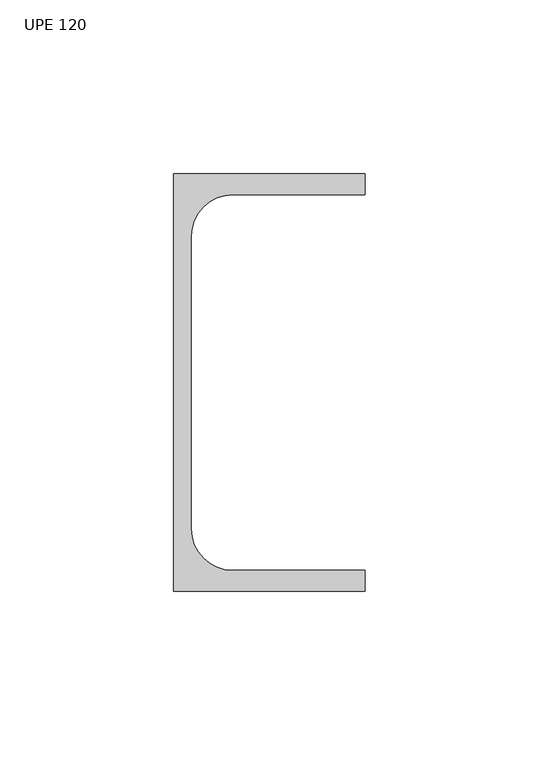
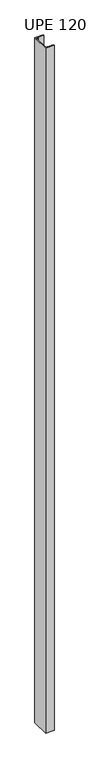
"""IFC4 building model written with IfcOpenShell, lengths in millimetres: column geometry, UPE - Canales de ala paralela - Pilar : UPE 120."""

import ifcopenshell
import ifcopenshell.guid

model = None  # the IFC model being written
_history = None  # IfcOwnerHistory: only IFC2X3 demands one
_inside = {}  # id of a spatial element -> (the spatial element, [elements in it])
_under = {}  # id of a project, library or spatial element -> (it, [spatial elements below it])
_declared = {}  # id of a project -> (the project, [libraries it declares])
_typed = {}  # id of a type object -> (the type object, [elements of that type])
_made_of = {}  # id of a material, layer set ... -> (it, [elements and type objects made of it])


def new_model(schema):
    """Start an empty IFC model of exactly this schema.

    Asked for "IFC4X3", IfcOpenShell would pick the latest addendum, in which some entities
    have other attributes; the version numbers below select the first issue.
    IFC2X3 requires an IfcOwnerHistory on every rooted entity: one is made here for all.
    """
    global model, _history
    if schema == "IFC4X3":
        model = ifcopenshell.file(schema_version=(4, 3, 0, 0))
    else:
        model = ifcopenshell.file(schema=schema)
    _inside.clear()
    _under.clear()
    _declared.clear()
    _typed.clear()
    _made_of.clear()
    _history = None
    if model.schema == "IFC2X3":
        org = make("IfcOrganization", Name="unknown")
        user = make(
            "IfcPersonAndOrganization",
            ThePerson=make("IfcPerson", FamilyName="unknown"),
            TheOrganization=org,
        )
        app = make(
            "IfcApplication",
            ApplicationDeveloper=org,
            Version="unknown",
            ApplicationFullName="unknown",
            ApplicationIdentifier="unknown",
        )
        _history = make(
            "IfcOwnerHistory",
            OwningUser=user,
            OwningApplication=app,
            ChangeAction="ADDED",
            CreationDate=0,
        )
    return model


def make(cls, **values):
    """One entity of the class cls with the attributes given. An attribute that is None is left unset."""
    return model.create_entity(
        cls, **{name: value for name, value in values.items() if value is not None}
    )


def rooted(cls, **values):
    """An entity with a GlobalId (a new one), such as an element, a storey or a relation."""
    return make(cls, GlobalId=ifcopenshell.guid.new(), OwnerHistory=_history, **values)


def si_unit(unit_type, name, prefix=None):
    """IfcSIUnit, for example si_unit("LENGTHUNIT", "METRE", prefix="MILLI")."""
    return make("IfcSIUnit", UnitType=unit_type, Prefix=prefix, Name=name)


def assignment(units):
    """IfcUnitAssignment: the units of a project."""
    return None if units is None else make("IfcUnitAssignment", Units=units)


def point(xyz):
    """IfcCartesianPoint."""
    return None if xyz is None else make("IfcCartesianPoint", Coordinates=xyz)


def direction(xyz):
    """IfcDirection."""
    return None if xyz is None else make("IfcDirection", DirectionRatios=xyz)


def frame(location, z_axis=None, x_axis=None):
    """IfcAxis2Placement3D, a coordinate frame: its origin and axes. An axis left out is left unset."""
    return make(
        "IfcAxis2Placement3D",
        Location=point(location),
        Axis=direction(z_axis),
        RefDirection=direction(x_axis),
    )


def frame_2d(location, x_axis=None):
    """IfcAxis2Placement2D, a coordinate frame in the plane: its origin and x axis."""
    return make(
        "IfcAxis2Placement2D", Location=point(location), RefDirection=direction(x_axis)
    )


def origin():
    """The frame at (0, 0, 0) with its axes left unset."""
    return frame((0.0, 0.0, 0.0))


def origin_with_axes():
    """The frame at (0, 0, 0) with the z axis (0, 0, 1) and the x axis (1, 0, 0) written out."""
    return frame((0.0, 0.0, 0.0), z_axis=(0.0, 0.0, 1.0), x_axis=(1.0, 0.0, 0.0))


def place(relative_to, where):
    """IfcLocalPlacement: puts the frame where relative to a parent placement (None: the world)."""
    return make(
        "IfcLocalPlacement", PlacementRelTo=relative_to, RelativePlacement=where
    )


def context(
    kind, dimensions, precision=None, world=None, true_north=None, identifier=None
):
    """IfcGeometricRepresentationContext, for example the 3D "Model" context."""
    return make(
        "IfcGeometricRepresentationContext",
        ContextIdentifier=identifier,
        ContextType=kind,
        CoordinateSpaceDimension=dimensions,
        Precision=precision,
        WorldCoordinateSystem=world,
        TrueNorth=true_north,
    )


def project(units=None, contexts=None):
    """IfcProject with its units and contexts."""
    return rooted(
        "IfcProject",
        Name="project",
        RepresentationContexts=contexts,
        UnitsInContext=assignment(units),
    )


def spatial(cls, under=None, at=None, **own):
    """A site, building, storey or space (cls), placed at a placement, below another one or the project."""
    s = rooted(cls, ObjectPlacement=at, **own)
    if under is not None:
        _under.setdefault(under.id(), (under, []))[1].append(s)
    return s


def polyline(points):
    """IfcPolyline through the points."""
    return make("IfcPolyline", Points=[point(p) for p in points])


def circle_curve(where, radius):
    """IfcCircle in the frame where."""
    return make("IfcCircle", Position=where, Radius=radius)


def trimmed(basis, trim1, trim2, sense, master):
    """IfcTrimmedCurve: the piece of a basis curve between two trims."""
    return make(
        "IfcTrimmedCurve",
        BasisCurve=basis,
        Trim1=trim1,
        Trim2=trim2,
        SenseAgreement=sense,
        MasterRepresentation=master,
    )


def segment(curve, same_sense, transition):
    """IfcCompositeCurveSegment."""
    return make(
        "IfcCompositeCurveSegment",
        Transition=transition,
        SameSense=same_sense,
        ParentCurve=curve,
    )


def composite_curve(segments, self_intersect=None):
    """IfcCompositeCurve: segments joined end to end."""
    return make("IfcCompositeCurve", Segments=segments, SelfIntersect=self_intersect)


def outline(outer, holes=None, kind="AREA"):
    """IfcArbitraryClosedProfileDef: a profile drawn as a closed curve; with holes, ...WithVoids."""
    if holes is None:
        return make("IfcArbitraryClosedProfileDef", ProfileType=kind, OuterCurve=outer)
    return make(
        "IfcArbitraryProfileDefWithVoids",
        ProfileType=kind,
        OuterCurve=outer,
        InnerCurves=holes,
    )


def extrude(swept, where, along, depth):
    """IfcExtrudedAreaSolid: the profile swept, set in the frame where, extruded along a direction by depth."""
    return make(
        "IfcExtrudedAreaSolid",
        SweptArea=swept,
        Position=where,
        ExtrudedDirection=direction(along),
        Depth=depth,
    )


def shape(context_of_items, identifier, shape_type, items):
    """IfcShapeRepresentation: the items that make up one representation, for example the "Body"."""
    return make(
        "IfcShapeRepresentation",
        ContextOfItems=context_of_items,
        RepresentationIdentifier=identifier,
        RepresentationType=shape_type,
        Items=items,
    )


def source(mapping_origin, context_of_items, identifier, shape_type, items):
    """IfcRepresentationMap: a shape defined once, which mapped items show again and again."""
    return make(
        "IfcRepresentationMap",
        MappingOrigin=mapping_origin,
        MappedRepresentation=shape(context_of_items, identifier, shape_type, items),
    )


def transform(
    local_origin,
    x_axis=None,
    y_axis=None,
    z_axis=None,
    scale=None,
    scale2=None,
    scale3=None,
    uniform=True,
):
    """IfcCartesianTransformationOperator3D, or its non-uniform kind. x_axis, y_axis, z_axis: its Axis1, 2, 3."""
    if uniform:
        return make(
            "IfcCartesianTransformationOperator3D",
            Axis1=direction(x_axis),
            Axis2=direction(y_axis),
            LocalOrigin=point(local_origin),
            Scale=scale,
            Axis3=direction(z_axis),
        )
    return make(
        "IfcCartesianTransformationOperator3DnonUniform",
        Axis1=direction(x_axis),
        Axis2=direction(y_axis),
        LocalOrigin=point(local_origin),
        Scale=scale,
        Axis3=direction(z_axis),
        Scale2=scale2,
        Scale3=scale3,
    )


def mapped(mapping_source, mapping_target):
    """IfcMappedItem: shows the shape of a source again, moved by a transform."""
    return make(
        "IfcMappedItem", MappingSource=mapping_source, MappingTarget=mapping_target
    )


def made_of(thing, what):
    """Note that an element or type object is made of a material, layer set ...; save() writes the relation."""
    if what is not None:
        _made_of.setdefault(what.id(), (what, []))[1].append(thing)
    return thing


def element(
    cls,
    number,
    at=None,
    inside=None,
    cuts=None,
    type_object=None,
    material=None,
    context=None,
    identifier="Body",
    shape_type=None,
    held_by="IfcProductDefinitionShape",
    body=None,
    shapes=None,
    **own,
):
    """One element of the class cls, such as IfcWall. Its Tag is "e" and its number.

    at: its placement. inside: the storey or other place that contains it. cuts: it is an
    opening in that element (IfcRelVoidsElement). A single representation is given by context,
    identifier, shape_type and body (its items); several are given by shapes. held_by: the class
    of the entity that holds the representations. save() writes the other relations.
    """
    e = rooted(cls, Tag="e%d" % number, ObjectPlacement=at, **own)
    if body is not None:
        shapes = [shape(context, identifier, shape_type, body)]
    if shapes is not None:
        e.Representation = make(held_by, Representations=shapes)
    if inside is not None:
        _inside.setdefault(inside.id(), (inside, []))[1].append(e)
    if cuts is not None:
        rooted(
            "IfcRelVoidsElement", RelatingBuildingElement=cuts, RelatedOpeningElement=e
        )
    if type_object is not None:
        _typed.setdefault(type_object.id(), (type_object, []))[1].append(e)
    return made_of(e, material)


def aggregate(whole, parts):
    """IfcRelAggregates: a whole, such as a stair, and the parts it consists of."""
    return rooted("IfcRelAggregates", RelatingObject=whole, RelatedObjects=parts)


def save(model, path):
    """Write the relations noted so far, then the file.

    IfcRelAggregates (storeys below a building ...), IfcRelContainedInSpatialStructure (elements
    in a storey), IfcRelDefinesByType, IfcRelAssociatesMaterial and IfcRelDeclares: one each for
    every whole, place, type object, material and project.
    """
    for whole, parts in _under.values():
        aggregate(whole, parts)
    for where, things in _inside.values():
        rooted(
            "IfcRelContainedInSpatialStructure",
            RelatedElements=things,
            RelatingStructure=where,
        )
    for kind, things in _typed.values():
        rooted("IfcRelDefinesByType", RelatedObjects=things, RelatingType=kind)
    for what, things in _made_of.values():
        rooted("IfcRelAssociatesMaterial", RelatedObjects=things, RelatingMaterial=what)
    for by, libraries in _declared.values():
        rooted("IfcRelDeclares", RelatingContext=by, RelatedDefinitions=libraries)
    model.write(path)


def upe_120_22fd8285(model_context):
    return source(origin(), model_context, "Body", "SweptSolid", [
        extrude(outline(composite_curve([segment(polyline([(-19.8, -60.0), (-19.8, 60.0), (35.2, 60.0), (35.2, 54.0), (-2.8, 54.0)]), True, "CONTINUOUS"), segment(trimmed(circle_curve(frame_2d((-2.8, 42.0)), 12.0), [point((-2.8, 54.0))], [point((-14.8, 42.0))], True, "CARTESIAN"), True, "CONTINUOUS"), segment(polyline([(-14.8, 42.0), (-14.8, -42.0)]), True, "CONTINUOUS"), segment(trimmed(circle_curve(frame_2d((-2.8, -42.0)), 12.0), [point((-14.8, -42.0))], [point((-2.8, -54.0))], True, "CARTESIAN"), True, "CONTINUOUS"), segment(polyline([(-2.8, -54.0), (35.2, -54.0), (35.2, -60.0), (-19.8, -60.0)]), True, "CONTINUOUS")], self_intersect=False)), origin_with_axes(), (0.0, 0.0, 1.0), 4710.0),
    ])


if __name__ == "__main__":
    model = new_model("IFC4")
    model_context = context("Model", 3, world=origin())
    ifc_project = project(units=[si_unit("LENGTHUNIT", "METRE", prefix="MILLI")], contexts=[model_context])
    site = spatial("IfcSite", under=ifc_project)
    building = spatial("IfcBuilding", under=site)
    placement = place(None, origin())
    upe_120_shape = upe_120_22fd8285(model_context)
    element("IfcColumn", 1, ObjectType="UPE - Canales de ala paralela - Pilar : UPE 120", at=placement, inside=building, context=model_context, shape_type="MappedRepresentation", body=[
        mapped(upe_120_shape, transform((0.0, 0.0, 0.0), x_axis=(1.0, 0.0, 0.0), y_axis=(0.0, 1.0, 0.0), z_axis=(0.0, 0.0, 1.0))),
    ])
    save(model, "model.ifc")
